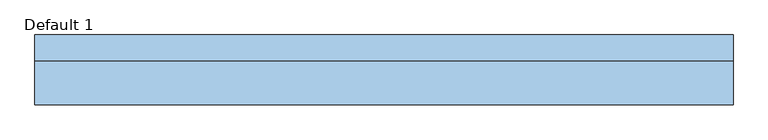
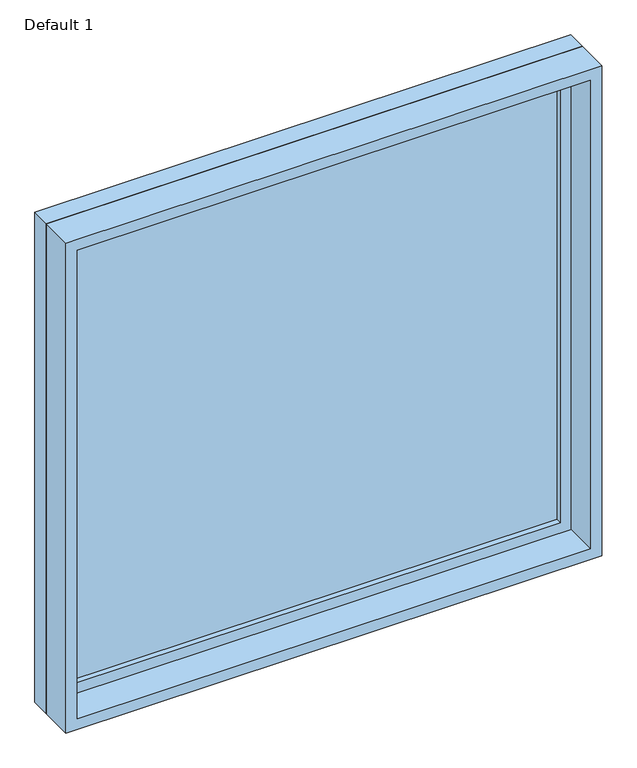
"""IFC4 building model written with IfcOpenShell, lengths in millimetres: window geometry, Planitar-Fixed : Default 1."""

from ifc_helpers import new_model, si_unit, frame, origin, place, context, project, spatial, polyline, outline, extrude, source, transform, mapped, element, save


def default_1_c4137e32(model_context):
    return source(origin(), model_context, "Body", "SweptSolid", [
        extrude(outline(polyline([(2368.6, -743.0), (933.4, -743.0), (933.4, 743.0), (2368.6, 743.0), (2368.6, -743.0)]), holes=[polyline([(2324.6, -699.0), (2324.6, 699.0), (977.4, 699.0), (977.4, -699.0), (2324.6, -699.0)])]), frame((0.0, 32.5, 0.0), z_axis=(0.0, 1.0, 0.0), x_axis=(0.0, 0.0, 1.0)), (0.0, 0.0, 1.0), 44.0),
        extrude(outline(polyline([(2387.6, -762.0), (914.4, -762.0), (914.4, 762.0), (2387.6, 762.0), (2387.6, -762.0)]), holes=[polyline([(2368.6, -743.0), (2368.6, 743.0), (933.4, 743.0), (933.4, -743.0), (2368.6, -743.0)])]), frame((0.0, 32.5, 0.0), z_axis=(0.0, 1.0, 0.0), x_axis=(0.0, 0.0, 1.0)), (0.0, 0.0, 1.0), 56.7),
        extrude(outline(polyline([(2387.6, -762.0), (914.4, -762.0), (914.4, 762.0), (2387.6, 762.0), (2387.6, -762.0)]), holes=[polyline([(2355.6, -730.0), (2355.6, 730.0), (946.4, 730.0), (946.4, -730.0), (2355.6, -730.0)])]), frame((0.0, -63.2, 0.0), z_axis=(0.0, 1.0, 0.0), x_axis=(0.0, 0.0, 1.0)), (0.0, 0.0, 1.0), 95.7),
        extrude(outline(polyline([(-699.0, 60.5), (699.0, 60.5), (699.0, 48.5), (-699.0, 48.5), (-699.0, 60.5)])), frame((0.0, 0.0, 977.4), z_axis=(0.0, 0.0, 1.0), x_axis=(1.0, 0.0, 0.0)), (0.0, 0.0, 1.0), 1347.2),
    ])


if __name__ == "__main__":
    model = new_model("IFC4")
    model_context = context("Model", 3, world=origin())
    ifc_project = project(units=[si_unit("LENGTHUNIT", "METRE", prefix="MILLI")], contexts=[model_context])
    site = spatial("IfcSite", under=ifc_project)
    building = spatial("IfcBuilding", under=site)
    placement = place(None, origin())
    default_1_shape = default_1_c4137e32(model_context)
    element("IfcWindow", 1, ObjectType="Planitar-Fixed : Default 1", at=placement, inside=building, context=model_context, shape_type="MappedRepresentation", body=[
        mapped(default_1_shape, transform((0.0, 0.0, 0.0), x_axis=(1.0, 0.0, 0.0), y_axis=(0.0, 1.0, 0.0), z_axis=(0.0, 0.0, 1.0))),
    ])
    save(model, "model.ifc")
